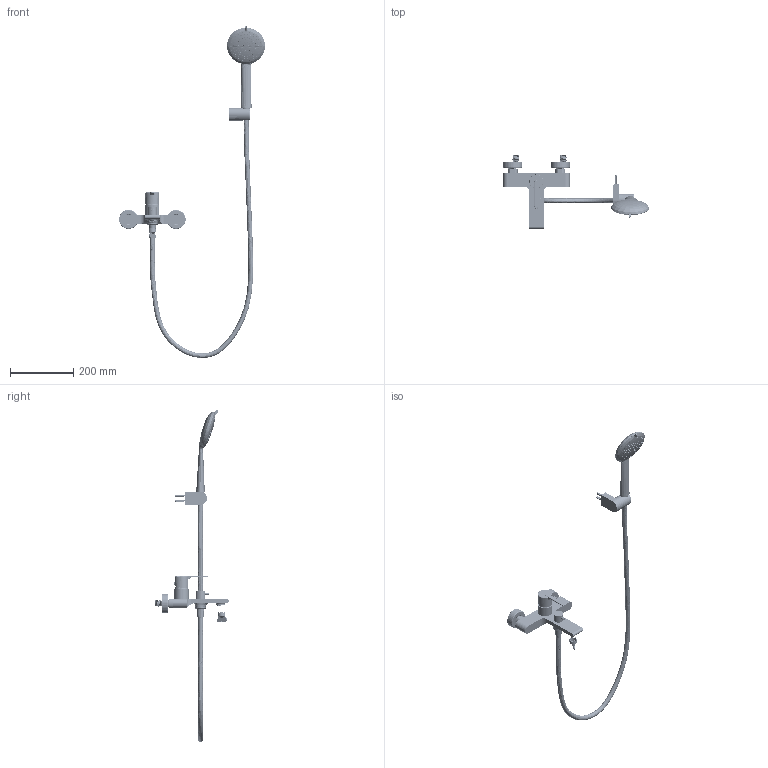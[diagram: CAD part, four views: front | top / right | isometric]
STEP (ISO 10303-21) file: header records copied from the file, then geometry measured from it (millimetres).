
FILE_DESCRIPTION((''),'2;1');
FILE_NAME('1216500_ASM','2022-12-17T',('Administrator'),(''),'PRO/ENGINEER BY PARAMETRIC TECHNOLOGY CORPORATION, 2015240','PRO/ENGINEER BY PARAMETRIC TECHNOLOGY CORPORATION, 2015240','');
FILE_SCHEMA(('CONFIG_CONTROL_DESIGN'));
Products named in the file (39): 512165-0100; 512147-0300; 61509042_AF0; 60700441; 61302922; 61803500; 61300700; 61500042; 61311100; 60720900; 65304041; 7609072-0100; 61102812; 7609072-0300; 60907200_ASM; 7609355-0100; 7609353-0200; 61105412; 60935500_ASM; 61100112; 61800800; 7654045-0112; 61600042; 7654000-1100; 65404599_ASM; 61200741; 760303300-0600; 760303300-0500; 760303300-0412; 760303300-0322; 760303300-0200; 760303300-0100; 760303300-0700; 61100212; 61301141; 60303300_ASM; 60111200; 61700112; 1216500_ASM
Assembly tree (47 placements, depth 3):
  1216500_ASM
    512165-0100
    512147-0300
    61509042_AF0
    60700441
    61302922
    61803500
    61300700  x2
    61500042  x2
    61311100  x2
    60720900
    65304041
    60907200_ASM
      7609072-0100
      61102812
      7609072-0300
    60935500_ASM
      7609355-0100
      7609353-0200
      61105412  x2
    61100112
    61800800
    65404599_ASM
      7654045-0112  x2
      61600042  x2
      7654000-1100  x2
    61200741
    60303300_ASM
      760303300-0600
      760303300-0500
      760303300-0412
      760303300-0322
      760303300-0200
      760303300-0100
      760303300-0700
      61100212  x2
      61301141  x2
    60111200
    61700112
Bounding box: 460.61 x 231.8 x 1046.46 mm (x, y, z)
Volume: 581738.6 mm3; surface area: 477801.7 mm2
Topology: 46 solids, 204 shells, 10072 faces, 26277 edges, 17157 vertices
Faces by surface type: plane 7413, cylinder 1134, cone 572, bspline 572, torus 303, sphere 41, revolution 27, extrusion 10
Entity records: 359451 total; most frequent: CARTESIAN_POINT 136452, ORIENTED_EDGE 48744, DIRECTION 40559, EDGE_CURVE 24418, VECTOR 16310, LINE 16300, VERTEX_POINT 15988, AXIS2_PLACEMENT_3D 12111
